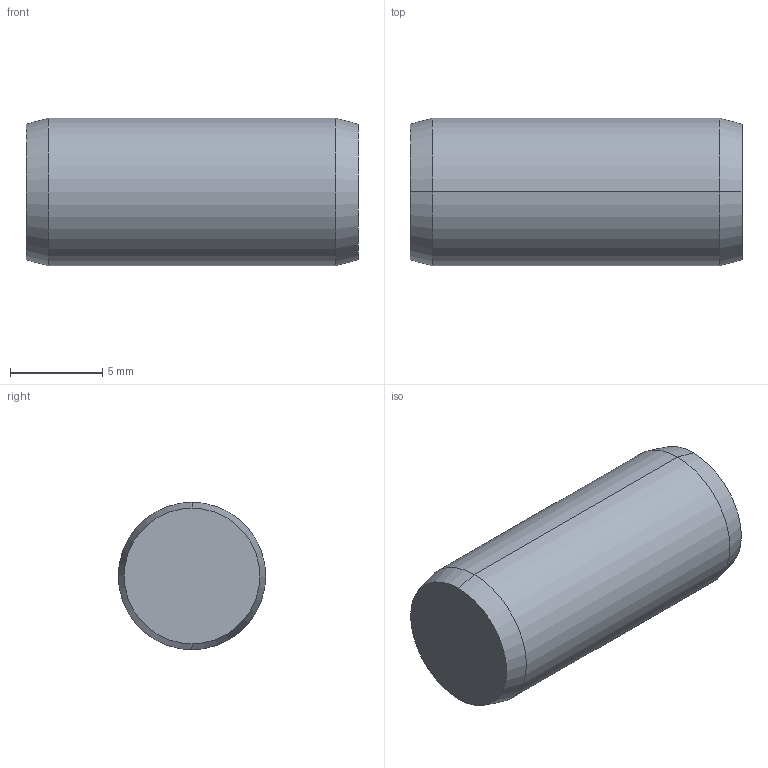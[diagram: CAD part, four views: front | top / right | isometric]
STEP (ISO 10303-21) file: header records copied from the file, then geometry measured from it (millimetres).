
FILE_DESCRIPTION (( 'STEP AP203' ), '1' );
FILE_NAME ('P1206.080-018.step', '2017-06-14T08:25:48', ( 'User' ), ( '' ), 'SwSTEP 2.0', 'SolidWorks 2009', '' );
FILE_SCHEMA (( 'CONFIG_CONTROL_DESIGN' ));
Length unit declared in the file: millimetre
Products named in the file (1): P1206.080-018
Bounding box: 18 x 8 x 8 mm (x, y, z)
Volume: 895.3 mm3; surface area: 537 mm2
Topology: 1 solids, 1 shells, 8 faces, 14 edges, 8 vertices
Faces by surface type: cone 4, cylinder 2, plane 2
Entity records: 271 total; most frequent: DIRECTION 40, CARTESIAN_POINT 31, ORIENTED_EDGE 28, AXIS2_PLACEMENT_3D 17, EDGE_CURVE 14, VERTEX_POINT 8, EDGE_LOOP 8, ADVANCED_FACE 8
